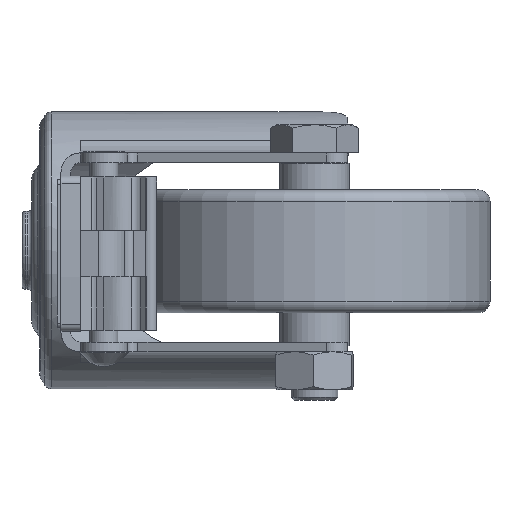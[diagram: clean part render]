
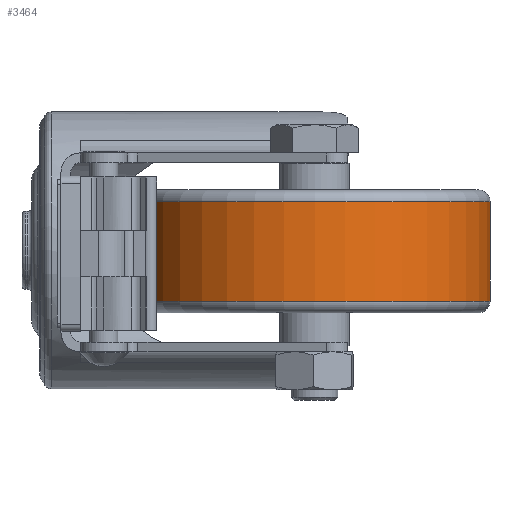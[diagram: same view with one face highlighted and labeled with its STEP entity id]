
A CAD part, left-side view. The second image highlights one B-rep face of the part: STEP entity #3464.
In plain terms, the highlighted cylindrical face has radius 30 mm (diameter 60 mm), a full revolution.
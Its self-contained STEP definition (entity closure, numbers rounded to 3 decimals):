
#156=LINE('',#5552,#404);
#404=VECTOR('',#4431,30.);
#652=CYLINDRICAL_SURFACE('',#3908,30.);
#869=FACE_OUTER_BOUND('',#1093,.T.);
#1093=EDGE_LOOP('',(#2466,#2467,#2468,#2469,#2470,#2471));
#1355=CIRCLE('',#3906,30.);
#1356=CIRCLE('',#3907,30.);
#1357=CIRCLE('',#3909,30.);
#1358=CIRCLE('',#3910,30.);
#1561=VERTEX_POINT('',#5542);
#1562=VERTEX_POINT('',#5544);
#1563=VERTEX_POINT('',#5548);
#1564=VERTEX_POINT('',#5549);
#1908=EDGE_CURVE('',#1561,#1562,#1355,.T.);
#1909=EDGE_CURVE('',#1562,#1561,#1356,.T.);
#1910=EDGE_CURVE('',#1563,#1564,#1357,.T.);
#1911=EDGE_CURVE('',#1564,#1563,#1358,.T.);
#1912=EDGE_CURVE('',#1564,#1562,#156,.T.);
#2466=ORIENTED_EDGE('',*,*,#1910,.F.);
#2467=ORIENTED_EDGE('',*,*,#1911,.F.);
#2468=ORIENTED_EDGE('',*,*,#1912,.T.);
#2469=ORIENTED_EDGE('',*,*,#1908,.F.);
#2470=ORIENTED_EDGE('',*,*,#1909,.F.);
#2471=ORIENTED_EDGE('',*,*,#1912,.F.);
#3464=ADVANCED_FACE('',(#869),#652,.T.);
#3906=AXIS2_PLACEMENT_3D('',#5545,#4421,#4422);
#3907=AXIS2_PLACEMENT_3D('',#5546,#4423,#4424);
#3908=AXIS2_PLACEMENT_3D('',#5547,#4425,#4426);
#3909=AXIS2_PLACEMENT_3D('',#5550,#4427,#4428);
#3910=AXIS2_PLACEMENT_3D('',#5551,#4429,#4430);
#4421=DIRECTION('center_axis',(0.,-1.,0.));
#4422=DIRECTION('ref_axis',(1.,0.,0.));
#4423=DIRECTION('center_axis',(0.,-1.,0.));
#4424=DIRECTION('ref_axis',(1.,0.,0.));
#4425=DIRECTION('center_axis',(0.,1.,0.));
#4426=DIRECTION('ref_axis',(1.,0.,0.));
#4427=DIRECTION('center_axis',(0.,1.,0.));
#4428=DIRECTION('ref_axis',(1.,0.,0.));
#4429=DIRECTION('center_axis',(0.,1.,0.));
#4430=DIRECTION('ref_axis',(1.,0.,0.));
#4431=DIRECTION('',(0.,-1.,0.));
#5542=CARTESIAN_POINT('',(0.,2.,30.));
#5544=CARTESIAN_POINT('',(-30.,2.,0.));
#5545=CARTESIAN_POINT('Origin',(0.,2.,0.));
#5546=CARTESIAN_POINT('Origin',(0.,2.,0.));
#5547=CARTESIAN_POINT('Origin',(0.,0.,0.));
#5548=CARTESIAN_POINT('',(0.,19.,-30.));
#5549=CARTESIAN_POINT('',(-30.,19.,0.));
#5550=CARTESIAN_POINT('Origin',(0.,19.,0.));
#5551=CARTESIAN_POINT('Origin',(0.,19.,0.));
#5552=CARTESIAN_POINT('',(-30.,0.,0.));
